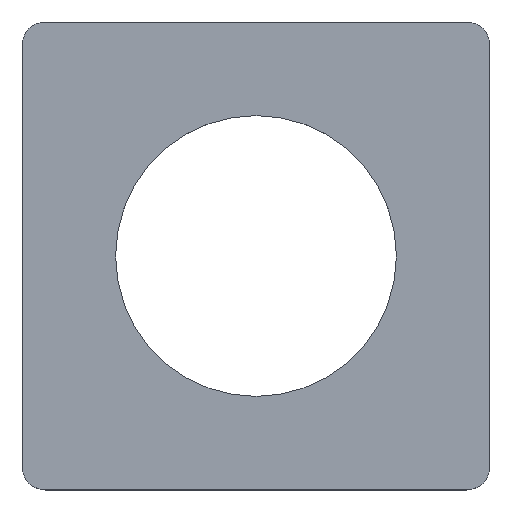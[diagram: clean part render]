
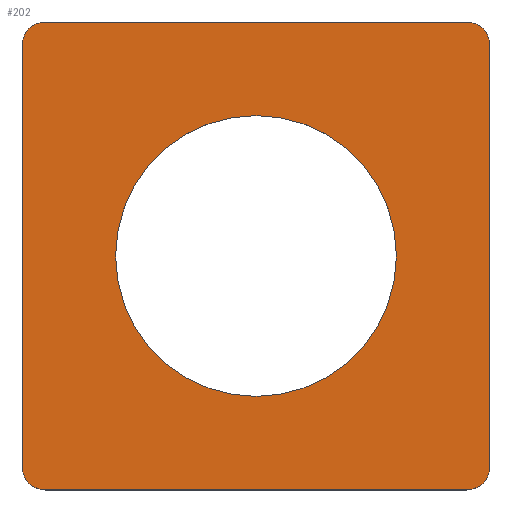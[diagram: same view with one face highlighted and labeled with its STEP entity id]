
A CAD part, top view. The second image highlights one B-rep face of the part: STEP entity #202.
In plain terms, the highlighted planar face has unit normal (0, 0, 1).
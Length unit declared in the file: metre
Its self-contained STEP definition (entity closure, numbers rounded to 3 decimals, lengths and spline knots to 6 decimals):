
#21=LINE('',#396,#37);
#22=LINE('',#400,#38);
#23=LINE('',#404,#39);
#24=LINE('',#408,#40);
#37=VECTOR('',#334,1.);
#38=VECTOR('',#337,1.);
#39=VECTOR('',#340,1.);
#40=VECTOR('',#343,1.);
#58=ORIENTED_EDGE('',*,*,#110,.T.);
#59=ORIENTED_EDGE('',*,*,#111,.T.);
#60=ORIENTED_EDGE('',*,*,#112,.T.);
#61=ORIENTED_EDGE('',*,*,#113,.T.);
#62=ORIENTED_EDGE('',*,*,#114,.T.);
#63=ORIENTED_EDGE('',*,*,#115,.T.);
#64=ORIENTED_EDGE('',*,*,#116,.T.);
#65=ORIENTED_EDGE('',*,*,#117,.T.);
#66=ORIENTED_EDGE('',*,*,#118,.F.);
#110=EDGE_CURVE('',#136,#137,#150,.T.);
#111=EDGE_CURVE('',#137,#138,#21,.T.);
#112=EDGE_CURVE('',#138,#139,#151,.T.);
#113=EDGE_CURVE('',#139,#140,#22,.T.);
#114=EDGE_CURVE('',#140,#141,#152,.T.);
#115=EDGE_CURVE('',#141,#142,#23,.T.);
#116=EDGE_CURVE('',#142,#143,#153,.T.);
#117=EDGE_CURVE('',#143,#136,#24,.T.);
#118=EDGE_CURVE('',#144,#144,#154,.T.);
#136=VERTEX_POINT('',#394);
#137=VERTEX_POINT('',#395);
#138=VERTEX_POINT('',#397);
#139=VERTEX_POINT('',#399);
#140=VERTEX_POINT('',#401);
#141=VERTEX_POINT('',#403);
#142=VERTEX_POINT('',#405);
#143=VERTEX_POINT('',#407);
#144=VERTEX_POINT('',#410);
#150=CIRCLE('',#298,0.0003);
#151=CIRCLE('',#299,0.0003);
#152=CIRCLE('',#300,0.0003);
#153=CIRCLE('',#301,0.0003);
#154=CIRCLE('',#302,0.0018);
#157=EDGE_LOOP('',(#58,#59,#60,#61,#62,#63,#64,#65));
#158=EDGE_LOOP('',(#66));
#171=FACE_BOUND('',#157,.T.);
#172=FACE_BOUND('',#158,.T.);
#184=PLANE('',#297);
#202=ADVANCED_FACE('',(#171,#172),#184,.T.);
#297=AXIS2_PLACEMENT_3D('',#392,#330,#331);
#298=AXIS2_PLACEMENT_3D('',#393,#332,#333);
#299=AXIS2_PLACEMENT_3D('',#398,#335,#336);
#300=AXIS2_PLACEMENT_3D('',#402,#338,#339);
#301=AXIS2_PLACEMENT_3D('',#406,#341,#342);
#302=AXIS2_PLACEMENT_3D('',#409,#344,#345);
#330=DIRECTION('',(0.,0.,1.));
#331=DIRECTION('',(1.,0.,0.));
#332=DIRECTION('',(0.,0.,1.));
#333=DIRECTION('',(1.,0.,0.));
#334=DIRECTION('',(1.,0.,0.));
#335=DIRECTION('',(0.,0.,1.));
#336=DIRECTION('',(1.,0.,0.));
#337=DIRECTION('',(0.,1.,0.));
#338=DIRECTION('',(0.,0.,1.));
#339=DIRECTION('',(1.,0.,0.));
#340=DIRECTION('',(-1.,0.,0.));
#341=DIRECTION('',(0.,0.,1.));
#342=DIRECTION('',(1.,0.,0.));
#343=DIRECTION('',(0.,-1.,0.));
#344=DIRECTION('',(0.,0.,1.));
#345=DIRECTION('',(1.,0.,0.));
#392=CARTESIAN_POINT('',(-0.106628,-0.058209,0.013));
#393=CARTESIAN_POINT('',(-0.106628,-0.058209,0.013));
#394=CARTESIAN_POINT('',(-0.106928,-0.058209,0.013));
#395=CARTESIAN_POINT('',(-0.106628,-0.058509,0.013));
#396=CARTESIAN_POINT('',(-0.106628,-0.058509,0.013));
#397=CARTESIAN_POINT('',(-0.101228,-0.058509,0.013));
#398=CARTESIAN_POINT('',(-0.101228,-0.058209,0.013));
#399=CARTESIAN_POINT('',(-0.100928,-0.058209,0.013));
#400=CARTESIAN_POINT('',(-0.100928,-0.058209,0.013));
#401=CARTESIAN_POINT('',(-0.100928,-0.052809,0.013));
#402=CARTESIAN_POINT('',(-0.101228,-0.052809,0.013));
#403=CARTESIAN_POINT('',(-0.101228,-0.052509,0.013));
#404=CARTESIAN_POINT('',(-0.101228,-0.052509,0.013));
#405=CARTESIAN_POINT('',(-0.106628,-0.052509,0.013));
#406=CARTESIAN_POINT('',(-0.106628,-0.052809,0.013));
#407=CARTESIAN_POINT('',(-0.106928,-0.052809,0.013));
#408=CARTESIAN_POINT('',(-0.106928,-0.052809,0.013));
#409=CARTESIAN_POINT('',(-0.103928,-0.055509,0.013));
#410=CARTESIAN_POINT('',(-0.102128,-0.055509,0.013));
